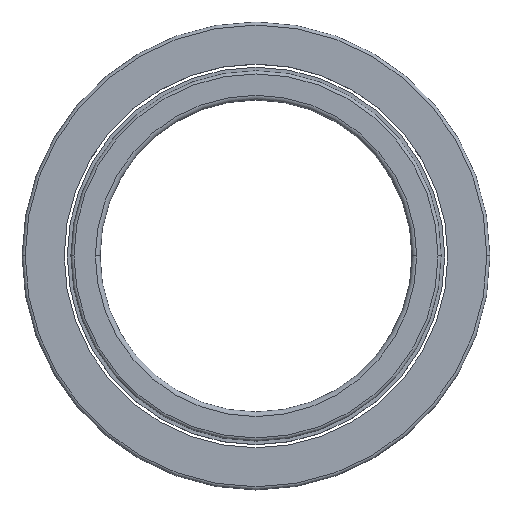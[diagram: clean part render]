
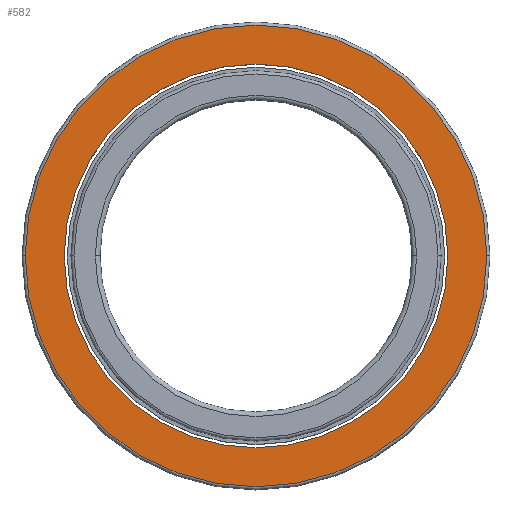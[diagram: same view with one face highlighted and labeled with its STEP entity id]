
A CAD part, top view. The second image highlights one B-rep face of the part: STEP entity #582.
In plain terms, the highlighted planar face has unit normal (0, 0, 1).
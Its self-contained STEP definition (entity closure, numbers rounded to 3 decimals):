
#55=CARTESIAN_POINT('',(0.,0.,10.));
#56=DIRECTION('',(0.,0.,1.));
#57=DIRECTION('',(-1.,0.,0.));
#58=AXIS2_PLACEMENT_3D('',#55,#56,#57);
#64=CARTESIAN_POINT('',(0.,0.,10.));
#65=DIRECTION('',(0.,0.,-1.));
#66=DIRECTION('',(-1.,0.,0.));
#67=AXIS2_PLACEMENT_3D('',#64,#65,#66);
#73=CARTESIAN_POINT('',(0.,0.,10.));
#74=DIRECTION('',(0.,0.,1.));
#75=DIRECTION('',(-1.,0.,0.));
#76=AXIS2_PLACEMENT_3D('',#73,#74,#75);
#78=CARTESIAN_POINT('',(0.,0.,10.));
#79=DIRECTION('',(0.,0.,-1.));
#80=DIRECTION('',(-1.,0.,0.));
#81=AXIS2_PLACEMENT_3D('',#78,#79,#80);
#379=CARTESIAN_POINT('',(-74.,0.,10.));
#380=VERTEX_POINT('',#379);
#381=CARTESIAN_POINT('',(-61.5,0.,10.));
#383=VERTEX_POINT('',#381);
#421=CARTESIAN_POINT('',(74.,0.,10.));
#422=VERTEX_POINT('',#421);
#423=CARTESIAN_POINT('',(61.5,0.,10.));
#425=VERTEX_POINT('',#423);
#567=CARTESIAN_POINT('',(0.,0.,10.));
#568=DIRECTION('',(0.,0.,1.));
#569=DIRECTION('',(-1.,0.,0.));
#570=AXIS2_PLACEMENT_3D('',#567,#568,#569);
#571=PLANE('',#570);
#573=ORIENTED_EDGE('',*,*,#572,.F.);
#575=ORIENTED_EDGE('',*,*,#574,.T.);
#576=EDGE_LOOP('',(#573,#575));
#577=FACE_OUTER_BOUND('',#576,.F.);
#578=ORIENTED_EDGE('',*,*,#553,.F.);
#579=ORIENTED_EDGE('',*,*,#535,.T.);
#580=EDGE_LOOP('',(#578,#579));
#581=FACE_BOUND('',#580,.F.);
#59=CIRCLE('',#58,61.5);
#68=CIRCLE('',#67,61.5);
#77=CIRCLE('',#76,74.);
#82=CIRCLE('',#81,74.);
#535=EDGE_CURVE('',#383,#425,#59,.T.);
#553=EDGE_CURVE('',#383,#425,#68,.T.);
#572=EDGE_CURVE('',#380,#422,#77,.T.);
#574=EDGE_CURVE('',#380,#422,#82,.T.);
#582=ADVANCED_FACE('',(#577,#581),#571,.T.);
